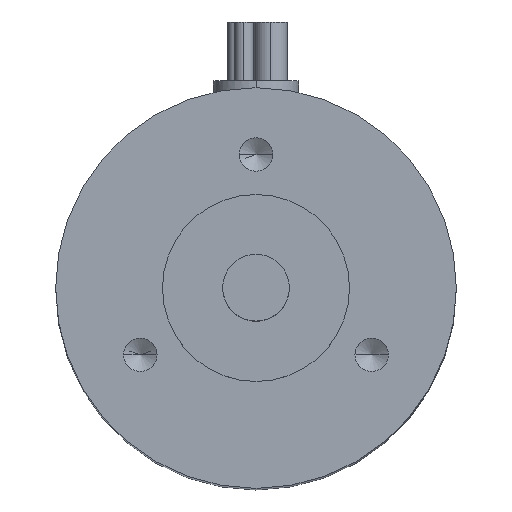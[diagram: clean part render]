
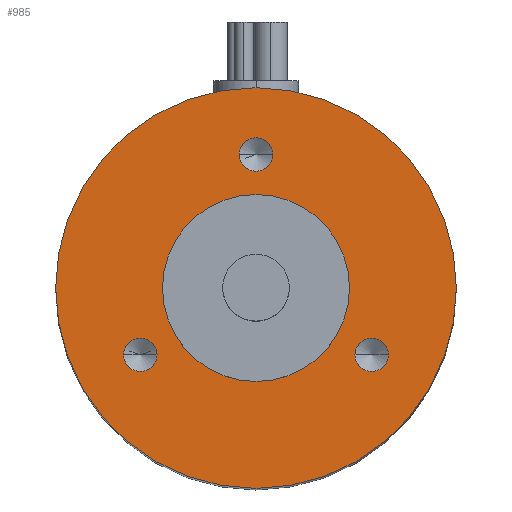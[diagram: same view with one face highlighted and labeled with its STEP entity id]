
A CAD part, top view. The second image highlights one B-rep face of the part: STEP entity #985.
In plain terms, the highlighted planar face has unit normal (0, 0, 1).
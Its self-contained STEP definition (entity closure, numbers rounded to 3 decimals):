
#27 = CARTESIAN_POINT ( 'NONE',  ( 8.66, -5., 0. ) ) ;
#31 = VERTEX_POINT ( 'NONE', #968 ) ;
#50 = DIRECTION ( 'NONE',  ( 0., 0., 1. ) ) ;
#70 = VERTEX_POINT ( 'NONE', #906 ) ;
#72 = CARTESIAN_POINT ( 'NONE',  ( 9.91, -5., 0. ) ) ;
#82 = AXIS2_PLACEMENT_3D ( 'NONE', #746, #267, #849 ) ;
#89 = VERTEX_POINT ( 'NONE', #920 ) ;
#114 = FACE_BOUND ( 'NONE', #1244, .T. ) ;
#118 = AXIS2_PLACEMENT_3D ( 'NONE', #461, #928, #641 ) ;
#135 = DIRECTION ( 'NONE',  ( 1., 0., 0. ) ) ;
#172 = EDGE_LOOP ( 'NONE', ( #941, #1062 ) ) ;
#199 = CARTESIAN_POINT ( 'NONE',  ( -1.25, 10., 0. ) ) ;
#206 = EDGE_CURVE ( 'NONE', #469, #70, #425, .T. ) ;
#211 = CARTESIAN_POINT ( 'NONE',  ( -15., 0., 0. ) ) ;
#253 = CARTESIAN_POINT ( 'NONE',  ( 8.66, -5., 0. ) ) ;
#255 = DIRECTION ( 'NONE',  ( 1., 0., 0. ) ) ;
#266 = DIRECTION ( 'NONE',  ( 1., 0., 0. ) ) ;
#267 = DIRECTION ( 'NONE',  ( 0., 0., 1. ) ) ;
#268 = EDGE_CURVE ( 'NONE', #1182, #872, #1095, .T. ) ;
#299 = CARTESIAN_POINT ( 'NONE',  ( 0., 0., 0. ) ) ;
#335 = CIRCLE ( 'NONE', #1044, 7. ) ;
#371 = DIRECTION ( 'NONE',  ( 0., 0., 1. ) ) ;
#375 = CARTESIAN_POINT ( 'NONE',  ( 0., 0., 0. ) ) ;
#407 = CARTESIAN_POINT ( 'NONE',  ( 0., 0., 0. ) ) ;
#409 = CIRCLE ( 'NONE', #118, 15. ) ;
#423 = DIRECTION ( 'NONE',  ( 1., 0., 0. ) ) ;
#425 = CIRCLE ( 'NONE', #479, 7. ) ;
#427 = EDGE_CURVE ( 'NONE', #31, #844, #645, .T. ) ;
#438 = DIRECTION ( 'NONE',  ( 1., 0., 0. ) ) ;
#442 = DIRECTION ( 'NONE',  ( 0., 0., 1. ) ) ;
#461 = CARTESIAN_POINT ( 'NONE',  ( 0., 0., 0. ) ) ;
#468 = VERTEX_POINT ( 'NONE', #529 ) ;
#469 = VERTEX_POINT ( 'NONE', #1142 ) ;
#472 = EDGE_CURVE ( 'NONE', #468, #89, #575, .T. ) ;
#479 = AXIS2_PLACEMENT_3D ( 'NONE', #930, #1121, #438 ) ;
#500 = EDGE_LOOP ( 'NONE', ( #1252, #664 ) ) ;
#501 = FACE_BOUND ( 'NONE', #500, .T. ) ;
#507 = FACE_BOUND ( 'NONE', #172, .T. ) ;
#529 = CARTESIAN_POINT ( 'NONE',  ( -7.41, -5., 0. ) ) ;
#542 = AXIS2_PLACEMENT_3D ( 'NONE', #576, #1165, #979 ) ;
#551 = EDGE_CURVE ( 'NONE', #89, #468, #1192, .T. ) ;
#565 = AXIS2_PLACEMENT_3D ( 'NONE', #299, #1080, #966 ) ;
#575 = CIRCLE ( 'NONE', #82, 1.25 ) ;
#576 = CARTESIAN_POINT ( 'NONE',  ( 0., 10., 0. ) ) ;
#580 = FACE_OUTER_BOUND ( 'NONE', #850, .T. ) ;
#585 = ORIENTED_EDGE ( 'NONE', *, *, #816, .T. ) ;
#632 = AXIS2_PLACEMENT_3D ( 'NONE', #407, #1119, #706 ) ;
#635 = CARTESIAN_POINT ( 'NONE',  ( -8.66, -5., 0. ) ) ;
#641 = DIRECTION ( 'NONE',  ( 1., 0., 0. ) ) ;
#645 = CIRCLE ( 'NONE', #970, 1.25 ) ;
#647 = DIRECTION ( 'NONE',  ( 1., 0., 0. ) ) ;
#657 = AXIS2_PLACEMENT_3D ( 'NONE', #796, #1185, #423 ) ;
#664 = ORIENTED_EDGE ( 'NONE', *, *, #551, .F. ) ;
#671 = EDGE_CURVE ( 'NONE', #70, #469, #335, .T. ) ;
#674 = CIRCLE ( 'NONE', #1160, 1.25 ) ;
#686 = PLANE ( 'NONE',  #632 ) ;
#706 = DIRECTION ( 'NONE',  ( 1., 0., 0. ) ) ;
#746 = CARTESIAN_POINT ( 'NONE',  ( -8.66, -5., 0. ) ) ;
#749 = EDGE_CURVE ( 'NONE', #844, #31, #674, .T. ) ;
#769 = ORIENTED_EDGE ( 'NONE', *, *, #206, .F. ) ;
#779 = EDGE_CURVE ( 'NONE', #918, #1075, #409, .T. ) ;
#796 = CARTESIAN_POINT ( 'NONE',  ( 0., 10., 0. ) ) ;
#797 = CIRCLE ( 'NONE', #657, 1.25 ) ;
#816 = EDGE_CURVE ( 'NONE', #1075, #918, #901, .T. ) ;
#844 = VERTEX_POINT ( 'NONE', #72 ) ;
#849 = DIRECTION ( 'NONE',  ( 1., 0., 0. ) ) ;
#850 = EDGE_LOOP ( 'NONE', ( #932, #585 ) ) ;
#872 = VERTEX_POINT ( 'NONE', #873 ) ;
#873 = CARTESIAN_POINT ( 'NONE',  ( 1.25, 10., 0. ) ) ;
#901 = CIRCLE ( 'NONE', #565, 15. ) ;
#903 = CARTESIAN_POINT ( 'NONE',  ( 15., 0., 0. ) ) ;
#906 = CARTESIAN_POINT ( 'NONE',  ( -7., 0., 0. ) ) ;
#918 = VERTEX_POINT ( 'NONE', #903 ) ;
#920 = CARTESIAN_POINT ( 'NONE',  ( -9.91, -5., 0. ) ) ;
#928 = DIRECTION ( 'NONE',  ( 0., 0., 1. ) ) ;
#930 = CARTESIAN_POINT ( 'NONE',  ( 0., 0., 0. ) ) ;
#932 = ORIENTED_EDGE ( 'NONE', *, *, #779, .T. ) ;
#941 = ORIENTED_EDGE ( 'NONE', *, *, #749, .F. ) ;
#946 = AXIS2_PLACEMENT_3D ( 'NONE', #635, #371, #255 ) ;
#966 = DIRECTION ( 'NONE',  ( 1., 0., 0. ) ) ;
#968 = CARTESIAN_POINT ( 'NONE',  ( 7.41, -5., 0. ) ) ;
#970 = AXIS2_PLACEMENT_3D ( 'NONE', #27, #1017, #135 ) ;
#979 = DIRECTION ( 'NONE',  ( 1., 0., 0. ) ) ;
#982 = FACE_BOUND ( 'NONE', #1257, .T. ) ;
#985 = ADVANCED_FACE ( 'NONE', ( #114, #501, #507, #982, #580 ), #686, .T. ) ;
#1017 = DIRECTION ( 'NONE',  ( 0., 0., 1. ) ) ;
#1044 = AXIS2_PLACEMENT_3D ( 'NONE', #375, #442, #647 ) ;
#1062 = ORIENTED_EDGE ( 'NONE', *, *, #427, .F. ) ;
#1075 = VERTEX_POINT ( 'NONE', #211 ) ;
#1080 = DIRECTION ( 'NONE',  ( 0., 0., 1. ) ) ;
#1095 = CIRCLE ( 'NONE', #542, 1.25 ) ;
#1119 = DIRECTION ( 'NONE',  ( 0., 0., 1. ) ) ;
#1121 = DIRECTION ( 'NONE',  ( 0., 0., 1. ) ) ;
#1142 = CARTESIAN_POINT ( 'NONE',  ( 7., 0., 0. ) ) ;
#1160 = AXIS2_PLACEMENT_3D ( 'NONE', #253, #50, #266 ) ;
#1165 = DIRECTION ( 'NONE',  ( 0., 0., 1. ) ) ;
#1182 = VERTEX_POINT ( 'NONE', #199 ) ;
#1185 = DIRECTION ( 'NONE',  ( 0., 0., 1. ) ) ;
#1189 = ORIENTED_EDGE ( 'NONE', *, *, #671, .F. ) ;
#1192 = CIRCLE ( 'NONE', #946, 1.25 ) ;
#1212 = ORIENTED_EDGE ( 'NONE', *, *, #268, .F. ) ;
#1217 = ORIENTED_EDGE ( 'NONE', *, *, #1238, .F. ) ;
#1238 = EDGE_CURVE ( 'NONE', #872, #1182, #797, .T. ) ;
#1244 = EDGE_LOOP ( 'NONE', ( #1217, #1212 ) ) ;
#1252 = ORIENTED_EDGE ( 'NONE', *, *, #472, .F. ) ;
#1257 = EDGE_LOOP ( 'NONE', ( #1189, #769 ) ) ;
